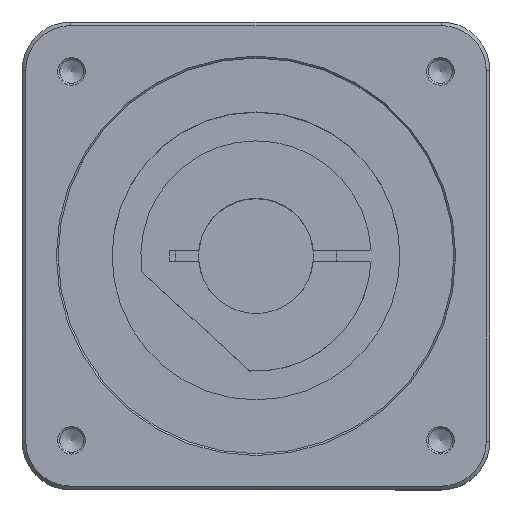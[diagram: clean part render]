
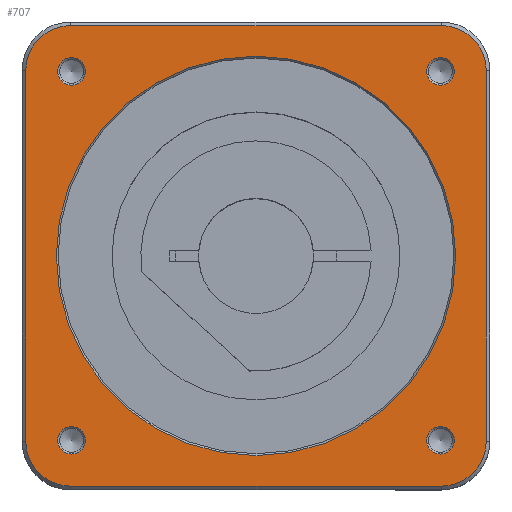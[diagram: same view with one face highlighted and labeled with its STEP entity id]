
A CAD part, top view. The second image highlights one B-rep face of the part: STEP entity #707.
In plain terms, the highlighted planar face has unit normal (0, 0, 1).
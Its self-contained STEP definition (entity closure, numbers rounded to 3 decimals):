
#573=CARTESIAN_POINT('',(51.265,47.442,256.));
#574=VERTEX_POINT('',#573);
#575=CARTESIAN_POINT('',(51.265,51.265,256.));
#576=DIRECTION('',(0.0,0.0,1.0));
#577=DIRECTION('',(0.0,1.0,0.0));
#578=AXIS2_PLACEMENT_3D('',#575,#576,#577);
#579=CIRCLE('',#578,3.823);
#580=EDGE_CURVE('',#574,#574,#579,.T.);
#585=CARTESIAN_POINT('',(0.,0.,256.));
#586=DIRECTION('',(0.0,0.0,1.0));
#587=DIRECTION('',(0.0,-1.0,0.0));
#588=AXIS2_PLACEMENT_3D('',#585,#586,#587);
#589=PLANE('',#588);
#590=CARTESIAN_POINT('',(64.,51.5,256.));
#591=VERTEX_POINT('',#590);
#592=CARTESIAN_POINT('',(64.,-51.5,256.));
#593=VERTEX_POINT('',#592);
#594=CARTESIAN_POINT('',(64.,51.5,256.));
#595=DIRECTION('',(0.0,-1.0,0.0));
#596=VECTOR('',#595,103.0);
#597=LINE('',#594,#596);
#598=EDGE_CURVE('',#591,#593,#597,.T.);
#599=ORIENTED_EDGE('',*,*,#598,.F.);
#600=CARTESIAN_POINT('',(51.5,64.,256.));
#601=VERTEX_POINT('',#600);
#602=CARTESIAN_POINT('',(51.5,51.5,256.));
#603=DIRECTION('',(0.,0.,-1.0));
#604=DIRECTION('',(0.707,0.707,0.));
#605=AXIS2_PLACEMENT_3D('',#602,#603,#604);
#606=CIRCLE('',#605,12.5);
#607=EDGE_CURVE('',#601,#591,#606,.T.);
#608=ORIENTED_EDGE('',*,*,#607,.F.);
#609=CARTESIAN_POINT('',(-51.5,64.,256.));
#610=VERTEX_POINT('',#609);
#611=CARTESIAN_POINT('',(-51.5,64.0,256.));
#612=DIRECTION('',(1.0,0.0,0.0));
#613=VECTOR('',#612,103.0);
#614=LINE('',#611,#613);
#615=EDGE_CURVE('',#610,#601,#614,.T.);
#616=ORIENTED_EDGE('',*,*,#615,.F.);
#617=CARTESIAN_POINT('',(-64.,51.5,256.));
#618=VERTEX_POINT('',#617);
#619=CARTESIAN_POINT('',(-51.5,51.5,256.));
#620=DIRECTION('',(0.,0.,-1.0));
#621=DIRECTION('',(-0.707,0.707,0.));
#622=AXIS2_PLACEMENT_3D('',#619,#620,#621);
#623=CIRCLE('',#622,12.5);
#624=EDGE_CURVE('',#618,#610,#623,.T.);
#625=ORIENTED_EDGE('',*,*,#624,.F.);
#626=CARTESIAN_POINT('',(-64.,-51.5,256.));
#627=VERTEX_POINT('',#626);
#628=CARTESIAN_POINT('',(-64.0,-51.5,256.));
#629=DIRECTION('',(0.0,1.0,0.0));
#630=VECTOR('',#629,103.);
#631=LINE('',#628,#630);
#632=EDGE_CURVE('',#627,#618,#631,.T.);
#633=ORIENTED_EDGE('',*,*,#632,.F.);
#634=CARTESIAN_POINT('',(-51.5,-64.,256.));
#635=VERTEX_POINT('',#634);
#636=CARTESIAN_POINT('',(-51.5,-51.5,256.));
#637=DIRECTION('',(0.,0.,-1.0));
#638=DIRECTION('',(-0.707,-0.707,0.));
#639=AXIS2_PLACEMENT_3D('',#636,#637,#638);
#640=CIRCLE('',#639,12.5);
#641=EDGE_CURVE('',#635,#627,#640,.T.);
#642=ORIENTED_EDGE('',*,*,#641,.F.);
#643=CARTESIAN_POINT('',(51.5,-64.,256.));
#644=VERTEX_POINT('',#643);
#645=CARTESIAN_POINT('',(51.5,-64.,256.));
#646=DIRECTION('',(-1.0,0.0,0.0));
#647=VECTOR('',#646,103.);
#648=LINE('',#645,#647);
#649=EDGE_CURVE('',#644,#635,#648,.T.);
#650=ORIENTED_EDGE('',*,*,#649,.F.);
#651=CARTESIAN_POINT('',(51.5,-51.5,256.));
#652=DIRECTION('',(0.,0.,-1.0));
#653=DIRECTION('',(0.707,-0.707,0.));
#654=AXIS2_PLACEMENT_3D('',#651,#652,#653);
#655=CIRCLE('',#654,12.5);
#656=EDGE_CURVE('',#593,#644,#655,.T.);
#657=ORIENTED_EDGE('',*,*,#656,.F.);
#658=EDGE_LOOP('',(#599,#608,#616,#625,#633,#642,#650,#657));
#659=FACE_OUTER_BOUND('',#658,.T.);
#660=CARTESIAN_POINT('',(-47.442,51.265,256.));
#661=VERTEX_POINT('',#660);
#662=CARTESIAN_POINT('',(-51.265,51.265,256.));
#663=DIRECTION('',(0.0,0.0,1.0));
#664=DIRECTION('',(-1.0,0.0,0.0));
#665=AXIS2_PLACEMENT_3D('',#662,#663,#664);
#666=CIRCLE('',#665,3.823);
#667=EDGE_CURVE('',#661,#661,#666,.T.);
#668=ORIENTED_EDGE('',*,*,#667,.F.);
#669=EDGE_LOOP('',(#668));
#670=FACE_BOUND('',#669,.T.);
#671=CARTESIAN_POINT('',(-51.265,-47.442,256.));
#672=VERTEX_POINT('',#671);
#673=CARTESIAN_POINT('',(-51.265,-51.265,256.));
#674=DIRECTION('',(0.0,0.0,1.0));
#675=DIRECTION('',(0.0,-1.0,0.0));
#676=AXIS2_PLACEMENT_3D('',#673,#674,#675);
#677=CIRCLE('',#676,3.823);
#678=EDGE_CURVE('',#672,#672,#677,.T.);
#679=ORIENTED_EDGE('',*,*,#678,.F.);
#680=EDGE_LOOP('',(#679));
#681=FACE_BOUND('',#680,.T.);
#682=CARTESIAN_POINT('',(0.,-55.5,256.));
#683=VERTEX_POINT('',#682);
#684=CARTESIAN_POINT('',(0.,0.,256.));
#685=DIRECTION('',(0.0,0.0,1.0));
#686=DIRECTION('',(0.0,1.0,0.0));
#687=AXIS2_PLACEMENT_3D('',#684,#685,#686);
#688=CIRCLE('',#687,55.5);
#689=EDGE_CURVE('',#683,#683,#688,.T.);
#690=ORIENTED_EDGE('',*,*,#689,.F.);
#691=EDGE_LOOP('',(#690));
#692=FACE_BOUND('',#691,.T.);
#693=CARTESIAN_POINT('',(47.442,-51.265,256.));
#694=VERTEX_POINT('',#693);
#695=CARTESIAN_POINT('',(51.265,-51.265,256.));
#696=DIRECTION('',(0.0,0.0,1.0));
#697=DIRECTION('',(1.0,0.0,0.0));
#698=AXIS2_PLACEMENT_3D('',#695,#696,#697);
#699=CIRCLE('',#698,3.823);
#700=EDGE_CURVE('',#694,#694,#699,.T.);
#701=ORIENTED_EDGE('',*,*,#700,.F.);
#702=EDGE_LOOP('',(#701));
#703=FACE_BOUND('',#702,.T.);
#704=ORIENTED_EDGE('',*,*,#580,.F.);
#705=EDGE_LOOP('',(#704));
#706=FACE_BOUND('',#705,.T.);
#707=ADVANCED_FACE('',(#659,#670,#681,#692,#703,#706),#589,.T.);
